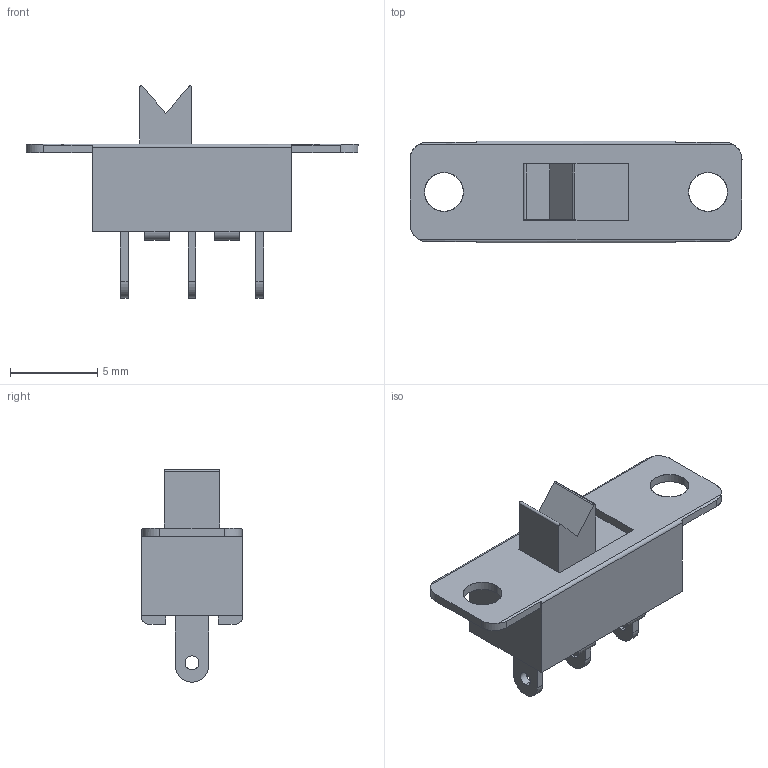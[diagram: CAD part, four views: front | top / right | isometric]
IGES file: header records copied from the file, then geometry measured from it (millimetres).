
Start section: SolidWorks IGES file using analytic representation for surfaces
Global section: file name: C:\Users\AndreBernot\Downloads\K-RACER-L_3D_SW\K-RACER-L_3D_SW\MICRO INVERSEUR A GLISSIERE.IGS; native system: SolidWorks 2015; preprocessor: SolidWorks 2015; author: AndreBernot; date: 170922.151319; units: millimetre
Bounding box: 19 x 5.82 x 12.15 mm (x, y, z)
Surface area: 500.2 mm2 (no closed solid volume)
Topology: 0 solids, 0 shells, 86 faces, 850 edges, 850 vertices
Faces by surface type: bspline 57, revolution 29
